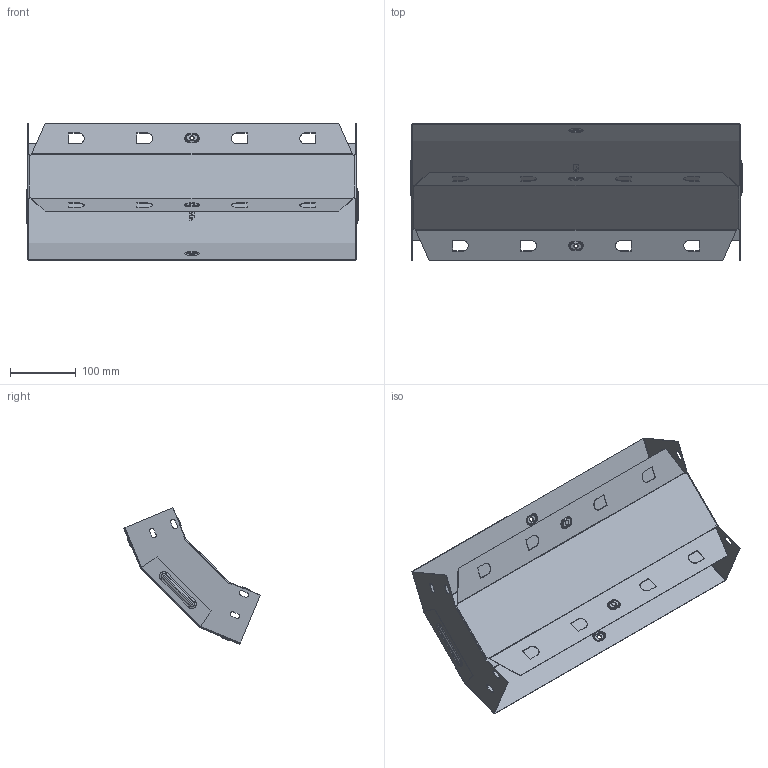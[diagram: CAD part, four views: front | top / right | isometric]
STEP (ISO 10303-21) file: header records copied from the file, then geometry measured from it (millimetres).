
FILE_DESCRIPTION (( 'STEP AP214' ), '1' );
FILE_NAME ('vo4580500_捘.STEP', '2019-06-10T08:17:59', ( '砐錪賧瘔蠈錪 Windows' ), ( '' ), 'SwSTEP 2.0', 'SolidWorks 2018', '' );
FILE_SCHEMA (( 'AUTOMOTIVE_DESIGN' ));
Length unit declared in the file: millimetre
Products named in the file (1): vo4580500_捘
Bounding box: 505.6 x 207.86 x 207.86 mm (x, y, z)
Volume: 210916.9 mm3; surface area: 531133.2 mm2
Topology: 2 solids, 2 shells, 404 faces, 1014 edges, 636 vertices
Faces by surface type: plane 197, cylinder 126, torus 64, bspline 17
Entity records: 12718 total; most frequent: CARTESIAN_POINT 2811, DIRECTION 2072, ORIENTED_EDGE 2028, EDGE_CURVE 1014, AXIS2_PLACEMENT_3D 720, VERTEX_POINT 636, LINE 632, VECTOR 632
